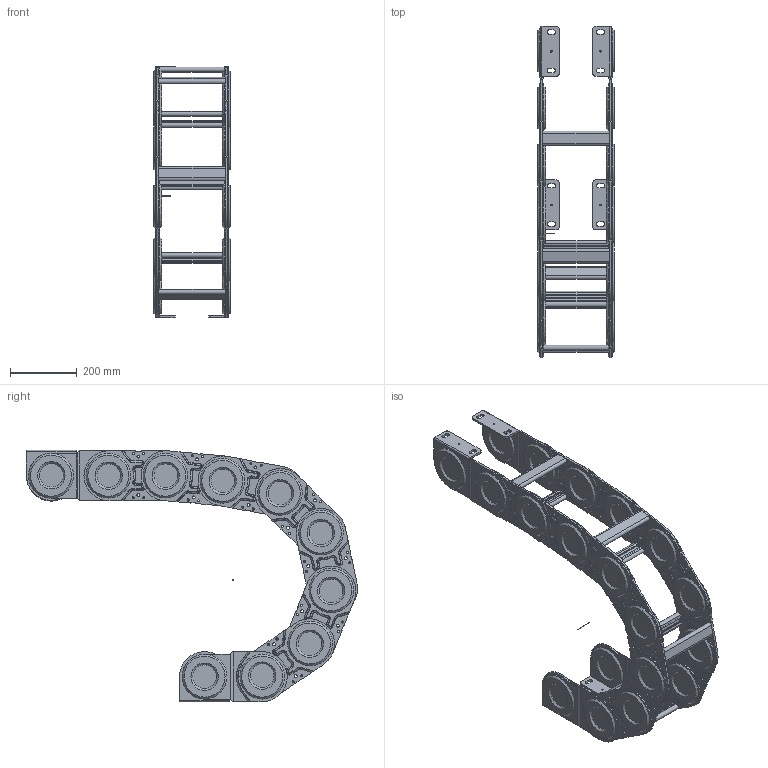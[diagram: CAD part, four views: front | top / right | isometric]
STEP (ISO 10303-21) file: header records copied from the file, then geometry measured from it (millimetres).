
FILE_DESCRIPTION((''),'2;1');
FILE_NAME('C:\Uebbing\TRACE PARTS\SLE\SLE 620\SLA 620 vereinfacht.stp','2013-05-27T14:49:17',('Uebbing'),(''),'Autodesk Inventor 10','Autodesk Inventor 10','');
FILE_SCHEMA(('AUTOMOTIVE_DESIGN { 1 0 10303 214 1 1 1 1 }'));
Length unit declared in the file: millimetre
Products named in the file (6): SLA 620 vereinfacht; Achse; SLE 620 Glied vereinfacht; SLE 620 Glied ohne Steg vereinfacht; SLE 620 Anschluss N einfach vereinfacht; SLE 620 Anschluss N doppelt vereinfacht
Assembly tree (10 placements, depth 2):
  SLA 620 vereinfacht
    Achse
    SLE 620 Glied vereinfacht  x4
    SLE 620 Glied ohne Steg vereinfacht  x3
    SLE 620 Anschluss N einfach vereinfacht
    SLE 620 Anschluss N doppelt vereinfacht
Bounding box: 230.2 x 993.93 x 754.28 mm (x, y, z)
Volume: 7833668.6 mm3; surface area: 2984142.4 mm2
Topology: 18 solids, 18 shells, 3019 faces, 7426 edges, 4547 vertices
Faces by surface type: plane 974, cylinder 709, cone 704, bspline 428, torus 204
Full cylindrical faces by diameter (mm): 1 x1, 5 x4, 5.5 x16, 6.3 x56, 9 x28, 71 x40, 134 x40
Entity records: 33143 total; most frequent: CARTESIAN_POINT 7159, DIRECTION 5780, ORIENTED_EDGE 5092, EDGE_CURVE 2546, AXIS2_PLACEMENT_3D 2258, VERTEX_POINT 1638, EDGE_LOOP 1314, VECTOR 1264
